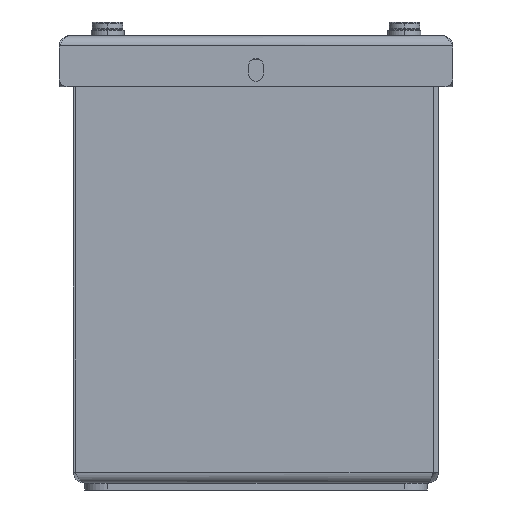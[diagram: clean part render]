
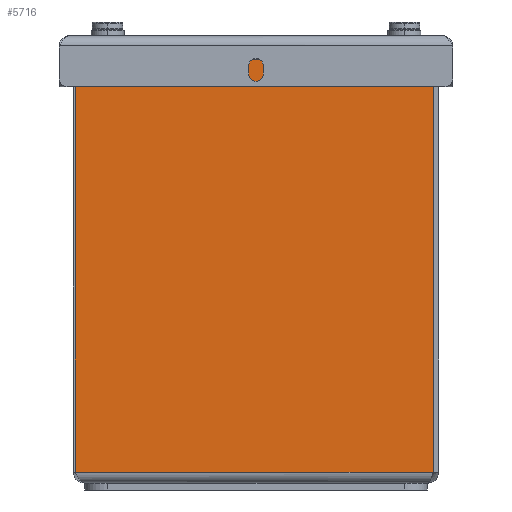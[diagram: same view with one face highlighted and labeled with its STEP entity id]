
A CAD part, left-side view. The second image highlights one B-rep face of the part: STEP entity #5716.
In plain terms, the highlighted planar face has unit normal (-1, 0, 0).
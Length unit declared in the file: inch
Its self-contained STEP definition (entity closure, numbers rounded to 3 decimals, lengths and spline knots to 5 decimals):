
#270=DIRECTION('',(0.,-1.,0.));
#271=VECTOR('',#270,3.918);
#272=CARTESIAN_POINT('',(0.,3.978,0.12));
#273=LINE('',#272,#271);
#1676=DIRECTION('',(0.,-1.,0.));
#1677=VECTOR('',#1676,3.22175);
#1678=CARTESIAN_POINT('',(0.,3.978,4.638));
#1679=LINE('',#1678,#1677);
#1770=DIRECTION('',(0.,0.,1.));
#1771=VECTOR('',#1770,4.518);
#1772=CARTESIAN_POINT('',(0.,3.978,0.12));
#1773=LINE('',#1772,#1771);
#1777=DIRECTION('',(0.,0.,1.));
#1778=VECTOR('',#1777,0.042);
#1779=CARTESIAN_POINT('',(0.,0.75625,4.638));
#1780=LINE('',#1779,#1778);
#1784=DIRECTION('',(0.,1.,0.));
#1785=VECTOR('',#1784,0.65125);
#1786=CARTESIAN_POINT('',(0.,0.105,4.68));
#1787=LINE('',#1786,#1785);
#1791=CARTESIAN_POINT('',(0.,0.105,4.635));
#1792=DIRECTION('',(-1.,0.,0.));
#1793=DIRECTION('',(0.,-1.,0.));
#1794=AXIS2_PLACEMENT_3D('',#1791,#1792,#1793);
#1841=DIRECTION('',(0.,0.,1.));
#1842=VECTOR('',#1841,4.515);
#1843=CARTESIAN_POINT('',(0.,0.06,0.12));
#1844=LINE('',#1843,#1842);
#3480=CARTESIAN_POINT('',(0.,0.75625,4.638));
#3481=CARTESIAN_POINT('',(0.,0.75625,4.68));
#3482=VERTEX_POINT('',#3480);
#3483=VERTEX_POINT('',#3481);
#3608=CARTESIAN_POINT('',(0.,3.978,0.12));
#3609=CARTESIAN_POINT('',(0.,3.978,4.638));
#3610=VERTEX_POINT('',#3608);
#3611=VERTEX_POINT('',#3609);
#3672=CARTESIAN_POINT('',(0.,0.06,4.635));
#3673=CARTESIAN_POINT('',(0.,0.105,4.68));
#3674=VERTEX_POINT('',#3672);
#3675=VERTEX_POINT('',#3673);
#3680=CARTESIAN_POINT('',(0.,0.06,0.12));
#3681=VERTEX_POINT('',#3680);
#5698=CARTESIAN_POINT('',(0.,4.,0.));
#5699=DIRECTION('',(-1.,0.,0.));
#5700=DIRECTION('',(0.,-1.,0.));
#5701=AXIS2_PLACEMENT_3D('',#5698,#5699,#5700);
#5702=PLANE('',#5701);
#5703=ORIENTED_EDGE('',*,*,#5243,.T.);
#5704=ORIENTED_EDGE('',*,*,#5688,.T.);
#5706=ORIENTED_EDGE('',*,*,#5705,.T.);
#5708=ORIENTED_EDGE('',*,*,#5707,.F.);
#5710=ORIENTED_EDGE('',*,*,#5709,.F.);
#5712=ORIENTED_EDGE('',*,*,#5711,.F.);
#5713=ORIENTED_EDGE('',*,*,#4078,.F.);
#5714=EDGE_LOOP('',(#5703,#5704,#5706,#5708,#5710,#5712,#5713));
#5715=FACE_OUTER_BOUND('',#5714,.F.);
#1795=CIRCLE('',#1794,0.045);
#4078=EDGE_CURVE('',#3610,#3681,#273,.T.);
#5243=EDGE_CURVE('',#3610,#3611,#1773,.T.);
#5688=EDGE_CURVE('',#3611,#3482,#1679,.T.);
#5705=EDGE_CURVE('',#3482,#3483,#1780,.T.);
#5707=EDGE_CURVE('',#3675,#3483,#1787,.T.);
#5709=EDGE_CURVE('',#3674,#3675,#1795,.T.);
#5711=EDGE_CURVE('',#3681,#3674,#1844,.T.);
#5716=ADVANCED_FACE('',(#5715),#5702,.T.);
